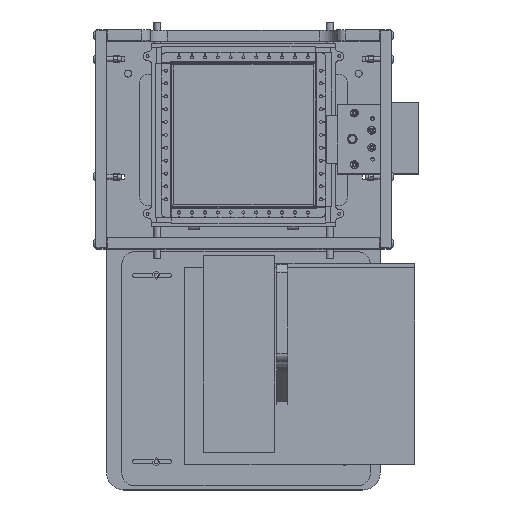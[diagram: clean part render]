
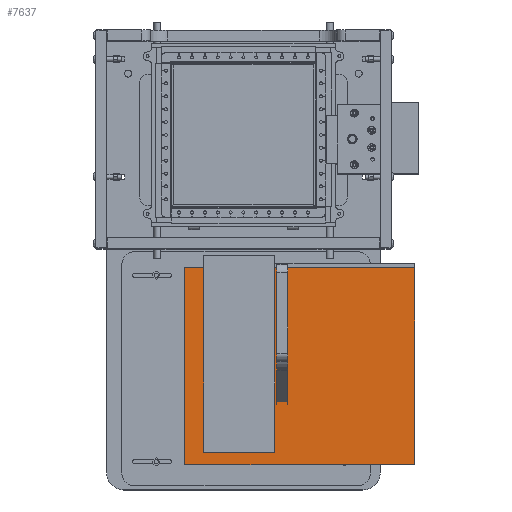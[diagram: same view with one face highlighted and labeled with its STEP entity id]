
A CAD part, top view. The second image highlights one B-rep face of the part: STEP entity #7637.
In plain terms, the highlighted planar face has unit normal (0, 0, 1) as drawn and (0, 0, -1) by its records, which use the part's own axes.
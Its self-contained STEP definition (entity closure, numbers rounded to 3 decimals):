
#7637=ADVANCED_FACE('',(#11887),#9679,.F.);
#9679=PLANE('',#56897);
#11887=FACE_OUTER_BOUND('',#15129,.T.);
#15129=EDGE_LOOP('',(#27674,#27675,#27676,#27677));
#27674=ORIENTED_EDGE('',*,*,#40879,.F.);
#27675=ORIENTED_EDGE('',*,*,#40868,.F.);
#27676=ORIENTED_EDGE('',*,*,#40872,.F.);
#27677=ORIENTED_EDGE('',*,*,#40876,.F.);
#34074=VERTEX_POINT('',#85875);
#34075=VERTEX_POINT('',#85876);
#34078=VERTEX_POINT('',#85884);
#34081=VERTEX_POINT('',#85892);
#40868=EDGE_CURVE('',#34074,#34075,#46802,.T.);
#40872=EDGE_CURVE('',#34078,#34074,#46806,.T.);
#40876=EDGE_CURVE('',#34081,#34078,#46809,.T.);
#40879=EDGE_CURVE('',#34075,#34081,#46812,.T.);
#46802=LINE('',#85874,#52558);
#46806=LINE('',#85883,#52562);
#46809=LINE('',#85891,#52565);
#46812=LINE('',#85897,#52568);
#52558=VECTOR('',#69185,1.);
#52562=VECTOR('',#69191,1.);
#52565=VECTOR('',#69198,1.);
#52568=VECTOR('',#69203,1.);
#56897=AXIS2_PLACEMENT_3D('',#85907,#69215,#69216);
#69185=DIRECTION('',(0.,-1.,0.));
#69191=DIRECTION('',(-1.,0.,0.));
#69198=DIRECTION('',(0.,1.,0.));
#69203=DIRECTION('',(1.,0.,0.));
#69215=DIRECTION('',(0.,0.,1.));
#69216=DIRECTION('',(1.,0.,0.));
#85874=CARTESIAN_POINT('',(0.,228.6,0.));
#85875=CARTESIAN_POINT('',(0.,228.6,0.));
#85876=CARTESIAN_POINT('',(0.,0.,0.));
#85883=CARTESIAN_POINT('',(266.7,228.6,0.));
#85884=CARTESIAN_POINT('',(266.7,228.6,0.));
#85891=CARTESIAN_POINT('',(266.7,0.,0.));
#85892=CARTESIAN_POINT('',(266.7,0.,0.));
#85897=CARTESIAN_POINT('',(0.,0.,0.));
#85907=CARTESIAN_POINT('',(133.35,114.3,0.));
